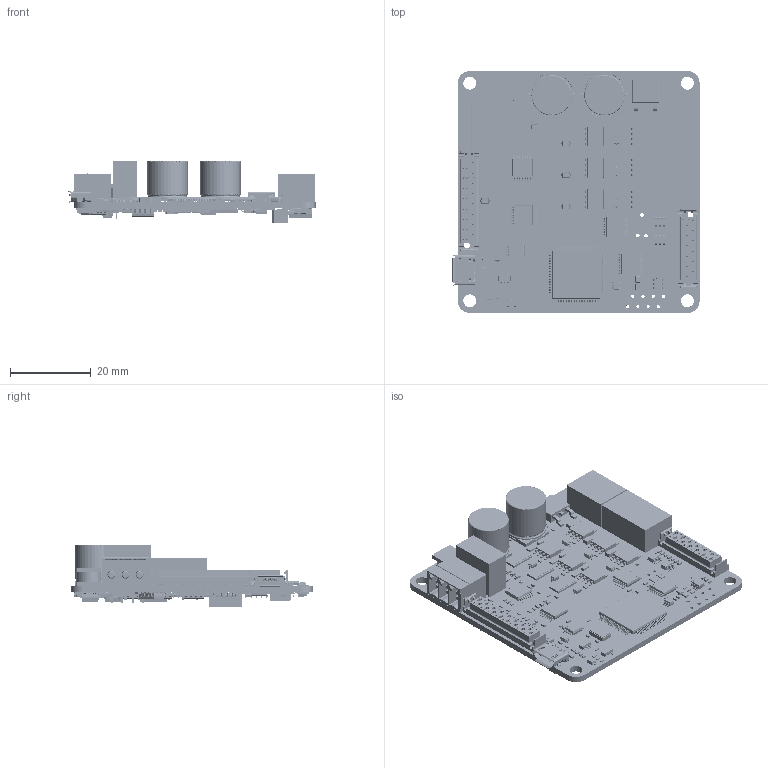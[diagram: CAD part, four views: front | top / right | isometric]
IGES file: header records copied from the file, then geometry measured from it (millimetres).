
Start section: SolidWorks IGES file using analytic representation for surfaces
Global section: file name: D:\Documents\INGENIA\PLUTO\i021-01H1.IGS; native system: SolidWorks 2020; preprocessor: SolidWorks 2020; author: arnus; date: 201124.165850; units: millimetre
Bounding box: 61.3 x 60 x 15.44 mm (x, y, z)
Surface area: 22495.4 mm2 (no closed solid volume)
Topology: 0 solids, 0 shells, 31736 faces, 185646 edges, 185360 vertices
Faces by surface type: bspline 22994, revolution 8742
